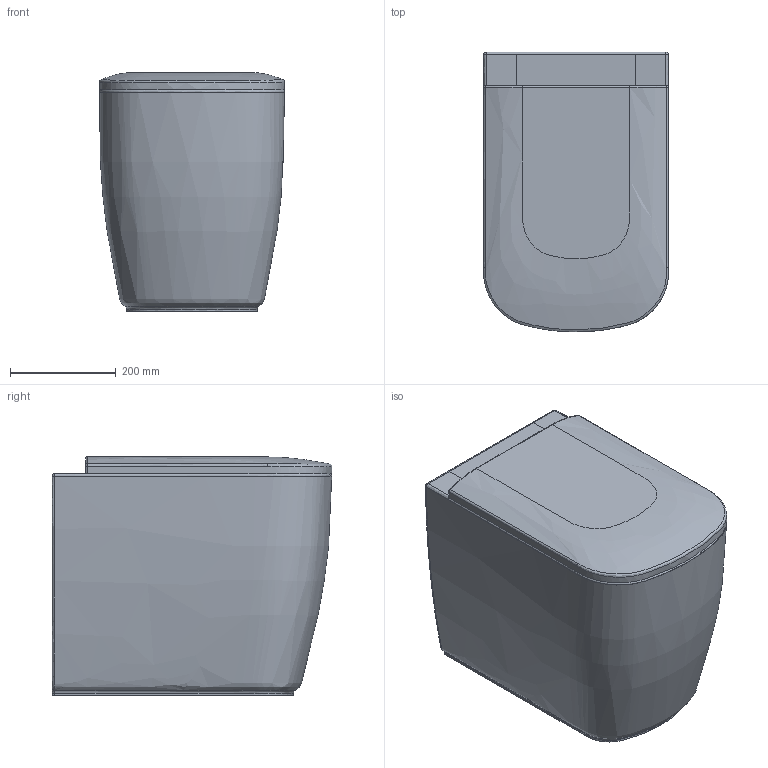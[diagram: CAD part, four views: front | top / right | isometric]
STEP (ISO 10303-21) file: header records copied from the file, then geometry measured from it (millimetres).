
FILE_DESCRIPTION(/* description */ (''),/* implementation_level */ '2;1');
FILE_NAME(/* name */ 'WCSEMP~1',/* time_stamp */ '2019-12-16T11:54:52+01:00',/* author */ (''),/* organization */ (''),/* preprocessor_version */ 'ST-DEVELOPER v16.5',/* originating_system */ '',/* authorisation */ '');
FILE_SCHEMA (('AUTOMOTIVE_DESIGN'));
Length unit declared in the file: centimetre
Products named in the file (1): Document
Bounding box: 350.18 x 529.84 x 452 mm (x, y, z)
Surface area: 932614.2 mm2 (no closed solid volume)
Topology: 0 solids, 20 shells, 33 faces, 114 edges, 101 vertices
Faces by surface type: bspline 28, plane 5
Entity records: 5461 total; most frequent: CARTESIAN_POINT 4888, ORIENTED_EDGE 143, EDGE_CURVE 114, VERTEX_POINT 101, ADVANCED_FACE 33, FACE_OUTER_BOUND 33, EDGE_LOOP 33, PRESENTATION_LAYER_ASSIGNMENT 20
